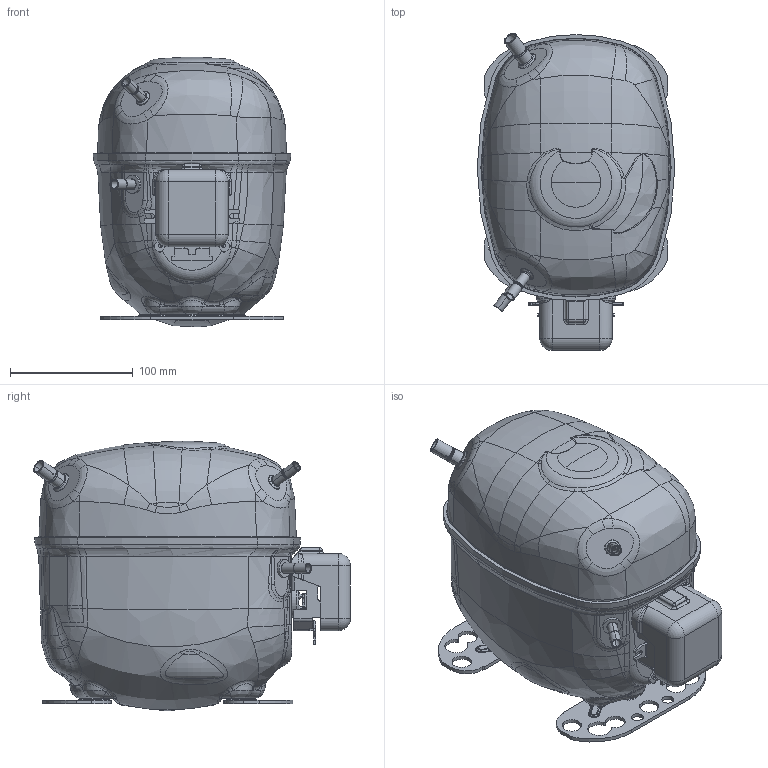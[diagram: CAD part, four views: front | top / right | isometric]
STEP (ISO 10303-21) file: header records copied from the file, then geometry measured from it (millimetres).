
FILE_DESCRIPTION((''),'2;1');
FILE_NAME('MS18UVULTM_S9_63_P6_5_D6_5_ASM','2026-05-12T02:07:23',('jia_x'),(''),'CREO PARAMETRIC BY PTC INC, 2021424','CREO PARAMETRIC BY PTC INC, 2021424','');
FILE_SCHEMA(('CONFIG_CONTROL_DESIGN'));
Length unit declared in the file: millimetre
Products named in the file (31): 104B1473_SCE_HOUSING_1_1; 104B0321_1_1_2; 104B0378_1; 104B0480_AF0_1; 104B1046_ASM_1_ASM; 104B0516_1; 104B0480_AF1_1; 104B1461_ASM_1_ASM; 104B0517_1; 104B0480_AF2_1; 104B1462_ASM_1_ASM; 103N0510_1_1_2; 104B0504_1; 117-3617_BODY_1; 117-3617_PINS_1; 117-3617_GLASS_FUSED_1; 117-3617_ASM_1_ASM; 104B0673_1_1_2; 104B0635_1_1_2; 104B0677_BENT_1; 104B0687_BENT_ASM_1_ASM; 104B1435_SCE_HOUSING_ASSY_ASM_1_ASM; 104B1435_SCE_HOUSING_ASSY_ASM_ASM; 104B0694_SC_COVER_L12_5_R8_5__1; 104B0682_AF4_1; 104B0684_AF2_1; 104B1483_SC_COVER_ASSY_ASM_1_ASM; 104B1483_SC_COVER_ASSY_ASM_ASM; 103N2009_4_1; SLVE_ASSEMBLY_LARRY_ASM_8_ASM; MS18UVULTM_S9_63_P6_5_D6_5_ASM
Assembly tree (35 placements, depth 6):
  MS18UVULTM_S9_63_P6_5_D6_5_ASM
    SLVE_ASSEMBLY_LARRY_ASM_8_ASM
      104B1435_SCE_HOUSING_ASSY_ASM_ASM
        104B1435_SCE_HOUSING_ASSY_ASM_1_ASM
          104B1473_SCE_HOUSING_1_1
          104B0321_1_1_2  x2
          104B1046_ASM_1_ASM
            104B0378_1
            104B0480_AF0_1
          104B1461_ASM_1_ASM
            104B0516_1
            104B0480_AF1_1
          104B1462_ASM_1_ASM
            104B0517_1
            104B0480_AF2_1
          103N0510_1_1_2
          104B0504_1
          117-3617_ASM_1_ASM
            117-3617_BODY_1
            117-3617_PINS_1  x3
            117-3617_GLASS_FUSED_1  x3
          104B0687_BENT_ASM_1_ASM
            104B0673_1_1_2
            104B0635_1_1_2
            104B0677_BENT_1
      104B1483_SC_COVER_ASSY_ASM_ASM
        104B1483_SC_COVER_ASSY_ASM_1_ASM
          104B0694_SC_COVER_L12_5_R8_5__1
          104B0682_AF4_1
          104B0684_AF2_1
      103N2009_4_1
Bounding box: 161.12 x 258.31 x 219.86 mm (x, y, z)
Volume: 529397.4 mm3; surface area: 385728.7 mm2
Topology: 25 solids, 25 shells, 2244 faces, 5697 edges, 3467 vertices
Faces by surface type: bspline 710, cylinder 523, plane 417, torus 268, cone 218, sphere 82, revolution 18, extrusion 8
Entity records: 105549 total; most frequent: CARTESIAN_POINT 59898, ORIENTED_EDGE 10388, DIRECTION 8272, EDGE_CURVE 5194, AXIS2_PLACEMENT_3D 3425, VERTEX_POINT 3182, EDGE_LOOP 2180, FACE_OUTER_BOUND 2091
